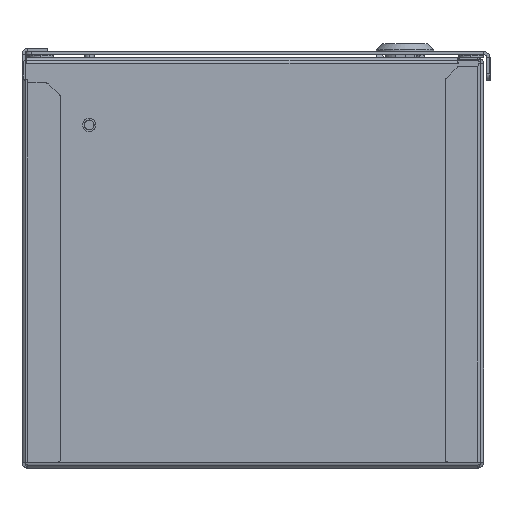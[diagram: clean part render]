
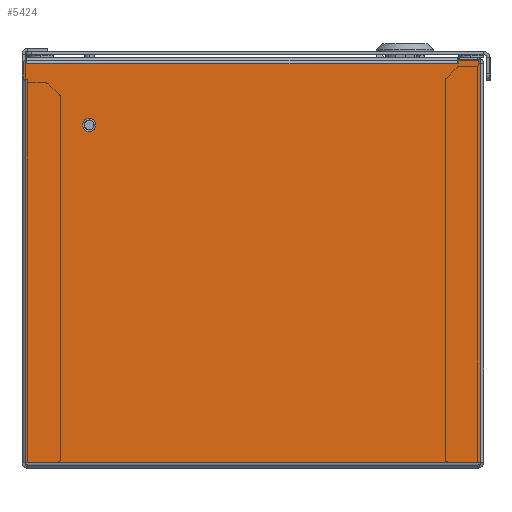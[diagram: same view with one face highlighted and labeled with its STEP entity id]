
A CAD part, left-side view. The second image highlights one B-rep face of the part: STEP entity #5424.
In plain terms, the highlighted planar face has unit normal (-1, 0, 0).
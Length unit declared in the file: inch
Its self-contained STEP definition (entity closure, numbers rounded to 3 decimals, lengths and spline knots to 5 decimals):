
#312=CARTESIAN_POINT('',(-12.,4.44,0.112));
#317=DIRECTION('',(0.,-1.,0.));
#318=VECTOR('',#317,8.88);
#319=CARTESIAN_POINT('',(-12.,4.44,0.112));
#320=LINE('',#319,#318);
#540=CARTESIAN_POINT('',(-12.,-4.44,0.112));
#579=DIRECTION('',(0.,0.,1.));
#580=VECTOR('',#579,7.838);
#581=CARTESIAN_POINT('',(-12.,-4.44,0.112));
#582=LINE('',#581,#580);
#586=CARTESIAN_POINT('',(-12.,3.19,6.69));
#587=DIRECTION('',(-1.,0.,0.));
#588=DIRECTION('',(0.,0.,-1.));
#589=AXIS2_PLACEMENT_3D('',#586,#587,#588);
#594=CARTESIAN_POINT('',(-12.,3.19,6.69));
#595=DIRECTION('',(-1.,0.,0.));
#596=DIRECTION('',(0.,0.,1.));
#597=AXIS2_PLACEMENT_3D('',#594,#595,#596);
#602=CARTESIAN_POINT('',(-12.,-4.02877,7.95));
#603=DIRECTION('',(-1.,0.,0.));
#604=DIRECTION('',(0.,0.,1.));
#605=AXIS2_PLACEMENT_3D('',#602,#603,#604);
#610=DIRECTION('',(0.,1.,0.));
#611=VECTOR('',#610,0.39123);
#612=CARTESIAN_POINT('',(-12.,-4.42,7.97));
#613=LINE('',#612,#611);
#617=CARTESIAN_POINT('',(-12.,-4.42,7.95));
#618=DIRECTION('',(-1.,0.,0.));
#619=DIRECTION('',(0.,-1.,0.));
#620=AXIS2_PLACEMENT_3D('',#617,#618,#619);
#625=DIRECTION('',(0.,0.,1.));
#626=VECTOR('',#625,7.453);
#627=CARTESIAN_POINT('',(-12.,4.44,0.112));
#628=LINE('',#627,#626);
#632=DIRECTION('',(0.,-1.,0.));
#633=VECTOR('',#632,0.01);
#634=CARTESIAN_POINT('',(-12.,4.45,7.565));
#635=LINE('',#634,#633);
#639=CARTESIAN_POINT('',(-12.,4.45,7.585));
#640=DIRECTION('',(-1.,0.,0.));
#641=DIRECTION('',(0.,1.,0.));
#642=AXIS2_PLACEMENT_3D('',#639,#640,#641);
#647=DIRECTION('',(0.,0.,-1.));
#648=VECTOR('',#647,0.335);
#649=CARTESIAN_POINT('',(-12.,4.47,7.92));
#650=LINE('',#649,#648);
#654=CARTESIAN_POINT('',(-12.,4.45,7.92));
#655=DIRECTION('',(-1.,0.,0.));
#656=DIRECTION('',(0.,0.,1.));
#657=AXIS2_PLACEMENT_3D('',#654,#655,#656);
#662=DIRECTION('',(0.,-0.174,-0.985));
#663=VECTOR('',#662,0.0528);
#664=CARTESIAN_POINT('',(-12.,4.43477,7.94));
#665=LINE('',#664,#663);
#669=DIRECTION('',(0.,1.,0.));
#670=VECTOR('',#669,0.0156);
#671=CARTESIAN_POINT('',(-12.,4.41,7.888));
#672=LINE('',#671,#670);
#676=DIRECTION('',(0.,-1.,0.));
#677=VECTOR('',#676,0.0156);
#678=CARTESIAN_POINT('',(-12.,-3.984,7.888));
#679=LINE('',#678,#677);
#683=DIRECTION('',(0.,0.174,-0.985));
#684=VECTOR('',#683,0.0528);
#685=CARTESIAN_POINT('',(-12.,-4.00877,7.94));
#686=LINE('',#685,#684);
#690=DIRECTION('',(0.,0.,-1.));
#691=VECTOR('',#690,0.01);
#692=CARTESIAN_POINT('',(-12.,-4.00877,7.95));
#693=LINE('',#692,#691);
#905=DIRECTION('',(0.,-1.,0.));
#906=VECTOR('',#905,8.394);
#907=CARTESIAN_POINT('',(-12.,4.41,7.888));
#908=LINE('',#907,#906);
#1111=DIRECTION('',(0.,1.,0.));
#1112=VECTOR('',#1111,0.01523);
#1113=CARTESIAN_POINT('',(-12.,4.43477,7.94));
#1114=LINE('',#1113,#1112);
#4119=VERTEX_POINT('',#312);
#4120=VERTEX_POINT('',#540);
#4192=CARTESIAN_POINT('',(-12.,4.41,7.888));
#4193=CARTESIAN_POINT('',(-12.,4.4256,7.888));
#4194=VERTEX_POINT('',#4192);
#4195=VERTEX_POINT('',#4193);
#4196=CARTESIAN_POINT('',(-12.,4.43477,7.94));
#4197=VERTEX_POINT('',#4196);
#4204=CARTESIAN_POINT('',(-12.,-3.984,7.888));
#4205=CARTESIAN_POINT('',(-12.,-3.9996,7.888));
#4206=VERTEX_POINT('',#4204);
#4207=VERTEX_POINT('',#4205);
#4208=CARTESIAN_POINT('',(-12.,-4.00877,7.94));
#4209=VERTEX_POINT('',#4208);
#4352=CARTESIAN_POINT('',(-12.,-4.02877,7.97));
#4353=CARTESIAN_POINT('',(-12.,-4.00877,7.95));
#4354=VERTEX_POINT('',#4352);
#4355=VERTEX_POINT('',#4353);
#4372=CARTESIAN_POINT('',(-12.,-4.42,7.97));
#4373=VERTEX_POINT('',#4372);
#4638=CARTESIAN_POINT('',(-12.,4.44,7.565));
#4640=VERTEX_POINT('',#4638);
#4642=CARTESIAN_POINT('',(-12.,-4.44,7.95));
#4643=VERTEX_POINT('',#4642);
#4666=CARTESIAN_POINT('',(-12.,4.47,7.585));
#4667=CARTESIAN_POINT('',(-12.,4.45,7.565));
#4668=VERTEX_POINT('',#4666);
#4669=VERTEX_POINT('',#4667);
#4674=CARTESIAN_POINT('',(-12.,4.45,7.94));
#4675=CARTESIAN_POINT('',(-12.,4.47,7.92));
#4676=VERTEX_POINT('',#4674);
#4677=VERTEX_POINT('',#4675);
#4738=CARTESIAN_POINT('',(-12.,3.19,6.59345));
#4739=CARTESIAN_POINT('',(-12.,3.19,6.78655));
#4740=VERTEX_POINT('',#4738);
#4741=VERTEX_POINT('',#4739);
#5380=CARTESIAN_POINT('',(-12.,4.5,0.));
#5381=DIRECTION('',(-1.,0.,0.));
#5382=DIRECTION('',(0.,-1.,0.));
#5383=AXIS2_PLACEMENT_3D('',#5380,#5381,#5382);
#5384=PLANE('',#5383);
#5386=ORIENTED_EDGE('',*,*,#5385,.F.);
#5388=ORIENTED_EDGE('',*,*,#5387,.F.);
#5389=ORIENTED_EDGE('',*,*,#5370,.F.);
#5390=ORIENTED_EDGE('',*,*,#5360,.F.);
#5391=ORIENTED_EDGE('',*,*,#4862,.F.);
#5393=ORIENTED_EDGE('',*,*,#5392,.T.);
#5395=ORIENTED_EDGE('',*,*,#5394,.F.);
#5397=ORIENTED_EDGE('',*,*,#5396,.F.);
#5399=ORIENTED_EDGE('',*,*,#5398,.F.);
#5401=ORIENTED_EDGE('',*,*,#5400,.F.);
#5403=ORIENTED_EDGE('',*,*,#5402,.F.);
#5405=ORIENTED_EDGE('',*,*,#5404,.T.);
#5407=ORIENTED_EDGE('',*,*,#5406,.F.);
#5409=ORIENTED_EDGE('',*,*,#5408,.T.);
#5411=ORIENTED_EDGE('',*,*,#5410,.T.);
#5413=ORIENTED_EDGE('',*,*,#5412,.F.);
#5415=ORIENTED_EDGE('',*,*,#5414,.F.);
#5416=EDGE_LOOP('',(#5386,#5388,#5389,#5390,#5391,#5393,#5395,#5397,#5399,#5401,
#5403,#5405,#5407,#5409,#5411,#5413,#5415));
#5417=FACE_OUTER_BOUND('',#5416,.F.);
#5419=ORIENTED_EDGE('',*,*,#5418,.T.);
#5421=ORIENTED_EDGE('',*,*,#5420,.T.);
#5422=EDGE_LOOP('',(#5419,#5421));
#5423=FACE_BOUND('',#5422,.F.);
#590=CIRCLE('',#589,0.09655);
#598=CIRCLE('',#597,0.09655);
#606=CIRCLE('',#605,0.02);
#621=CIRCLE('',#620,0.02);
#643=CIRCLE('',#642,0.02);
#658=CIRCLE('',#657,0.02);
#4862=EDGE_CURVE('',#4119,#4120,#320,.T.);
#5360=EDGE_CURVE('',#4120,#4643,#582,.T.);
#5370=EDGE_CURVE('',#4643,#4373,#621,.T.);
#5385=EDGE_CURVE('',#4354,#4355,#606,.T.);
#5387=EDGE_CURVE('',#4373,#4354,#613,.T.);
#5392=EDGE_CURVE('',#4119,#4640,#628,.T.);
#5394=EDGE_CURVE('',#4669,#4640,#635,.T.);
#5396=EDGE_CURVE('',#4668,#4669,#643,.T.);
#5398=EDGE_CURVE('',#4677,#4668,#650,.T.);
#5400=EDGE_CURVE('',#4676,#4677,#658,.T.);
#5402=EDGE_CURVE('',#4197,#4676,#1114,.T.);
#5404=EDGE_CURVE('',#4197,#4195,#665,.T.);
#5406=EDGE_CURVE('',#4194,#4195,#672,.T.);
#5408=EDGE_CURVE('',#4194,#4206,#908,.T.);
#5410=EDGE_CURVE('',#4206,#4207,#679,.T.);
#5412=EDGE_CURVE('',#4209,#4207,#686,.T.);
#5414=EDGE_CURVE('',#4355,#4209,#693,.T.);
#5418=EDGE_CURVE('',#4740,#4741,#590,.T.);
#5420=EDGE_CURVE('',#4741,#4740,#598,.T.);
#5424=ADVANCED_FACE('',(#5417,#5423),#5384,.T.);
